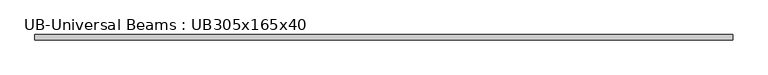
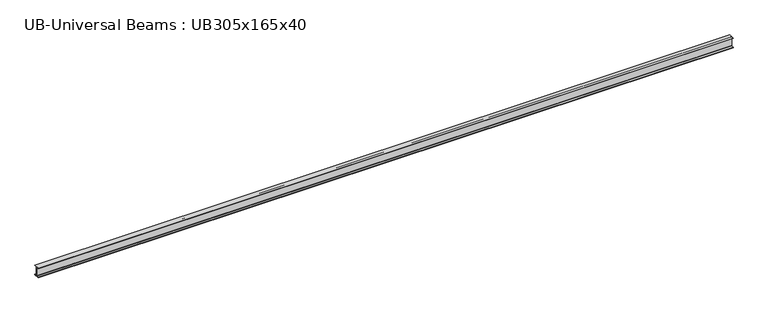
"""IFC4 building model written with IfcOpenShell, lengths in millimetres: beam geometry, UB-Universal Beams : UB305x165x40."""

from ifc_helpers import new_model, si_unit, point, frame, frame_2d, origin, place, context, project, spatial, polyline, circle_curve, trimmed, segment, composite_curve, outline, extrude, source, transform, mapped, element, save


def ub_universal_beams_ub305x165x40_08eb0503(model_context):
    return source(origin(), model_context, "Body", "SweptSolid", [
        extrude(outline(composite_curve([segment(polyline([(82.5, -141.5), (82.5, -151.7), (-82.5, -151.7), (-82.5, -141.5), (-11.9, -141.5)]), True, "CONTINUOUS"), segment(trimmed(circle_curve(frame_2d((-11.9, -132.6)), 8.9), [point((-11.9, -141.5))], [point((-3.0, -132.6))], True, "CARTESIAN"), True, "CONTINUOUS"), segment(polyline([(-3.0, -132.6), (-3.0, 132.6)]), True, "CONTINUOUS"), segment(trimmed(circle_curve(frame_2d((-11.9, 132.6)), 8.9), [point((-3.0, 132.6))], [point((-11.9, 141.5))], True, "CARTESIAN"), True, "CONTINUOUS"), segment(polyline([(-11.9, 141.5), (-82.5, 141.5), (-82.5, 151.7), (82.5, 151.7), (82.5, 141.5), (11.9, 141.5)]), True, "CONTINUOUS"), segment(trimmed(circle_curve(frame_2d((11.9, 132.6)), 8.9), [point((11.9, 141.5))], [point((3.0, 132.6))], True, "CARTESIAN"), True, "CONTINUOUS"), segment(polyline([(3.0, 132.6), (3.0, -132.6)]), True, "CONTINUOUS"), segment(trimmed(circle_curve(frame_2d((11.9, -132.6)), 8.9), [point((3.0, -132.6))], [point((11.9, -141.5))], True, "CARTESIAN"), True, "CONTINUOUS"), segment(polyline([(11.9, -141.5), (82.5, -141.5)]), True, "CONTINUOUS")], self_intersect=False)), frame((-8962.7, 0.0, 0.0), z_axis=(1.0, 0.0, 0.0), x_axis=(0.0, 1.0, 0.0)), (0.0, 0.0, 1.0), 20833.3),
    ])


if __name__ == "__main__":
    model = new_model("IFC4")
    model_context = context("Model", 3, world=origin())
    ifc_project = project(units=[si_unit("LENGTHUNIT", "METRE", prefix="MILLI")], contexts=[model_context])
    site = spatial("IfcSite", under=ifc_project)
    building = spatial("IfcBuilding", under=site)
    placement = place(None, origin())
    ub_universal_beams_ub305x165x40_shape = ub_universal_beams_ub305x165x40_08eb0503(model_context)
    element("IfcBeam", 1, ObjectType="UB-Universal Beams : UB305x165x40", at=placement, inside=building, context=model_context, shape_type="MappedRepresentation", body=[
        mapped(ub_universal_beams_ub305x165x40_shape, transform((0.0, 0.0, 0.0), x_axis=(1.0, 0.0, 0.0), y_axis=(0.0, 1.0, 0.0), z_axis=(0.0, 0.0, 1.0))),
    ])
    save(model, "model.ifc")
